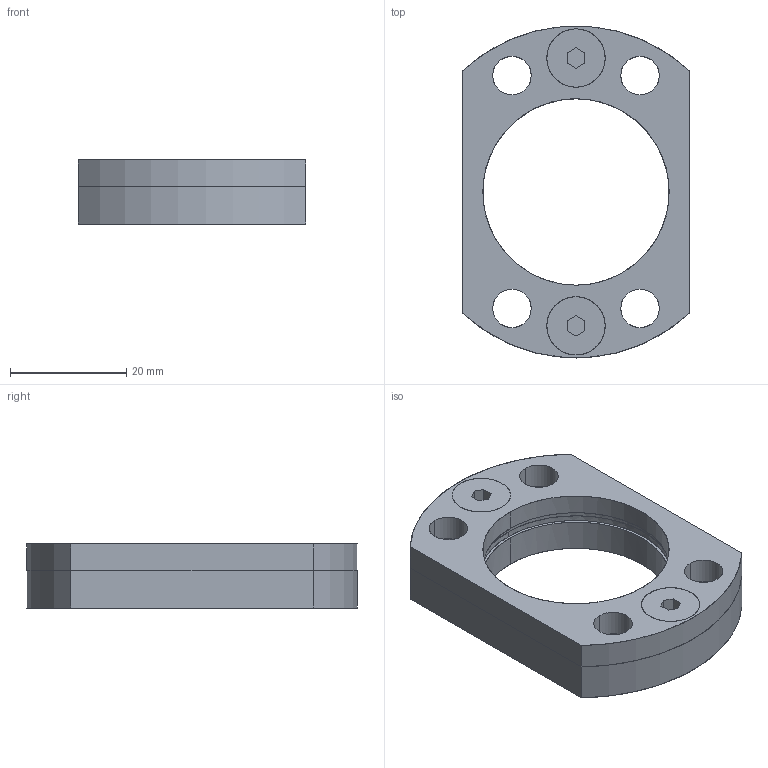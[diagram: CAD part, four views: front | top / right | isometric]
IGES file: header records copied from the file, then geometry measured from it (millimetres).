
Global section: file name: E:\UnigraphicsGraphicData\MISUMI_PRESS-PARTS\IGES\3d_fm-32_03756_r00.igs; native system: NX V5.0; preprocessor: UGS NX IGES V5.0; author: MISUMI; date: 20110105.160644; units: millimetre
Bounding box: 39 x 57 x 11 mm (x, y, z)
Surface area: 9087.2 mm2 (no closed solid volume)
Topology: 0 solids, 0 shells, 80 faces, 688 edges, 688 vertices
Faces by surface type: bspline 80
